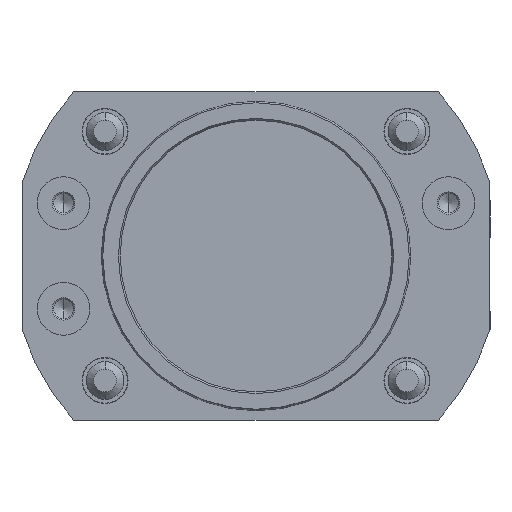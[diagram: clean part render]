
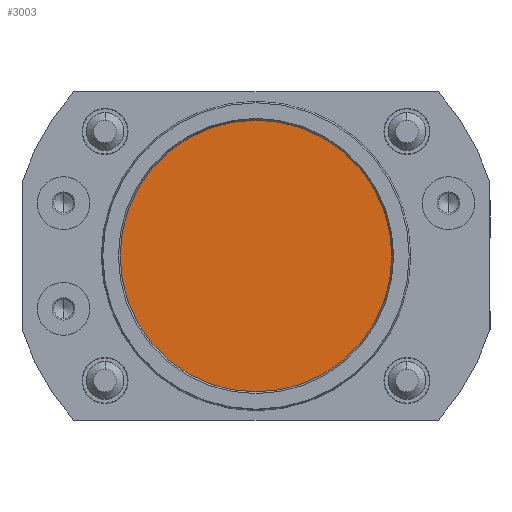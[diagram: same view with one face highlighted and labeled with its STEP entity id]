
A CAD part, front view. The second image highlights one B-rep face of the part: STEP entity #3003.
In plain terms, the highlighted planar face has unit normal (0, -1, 0).
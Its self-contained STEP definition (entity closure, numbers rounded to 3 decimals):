
#2820 = VERTEX_POINT ( 'NONE', #5390 ) ;
#2971 = ORIENTED_EDGE ( 'NONE', *, *, #3255, .F. ) ;
#3001 = EDGE_CURVE ( 'NONE', #3254, #2820, #6506, .T. ) ;
#3003 = ADVANCED_FACE ( 'NONE', ( #6519 ), #6437, .T. ) ;
#3012 = EDGE_LOOP ( 'NONE', ( #3013, #2971 ) ) ;
#3013 = ORIENTED_EDGE ( 'NONE', *, *, #3001, .F. ) ;
#3254 = VERTEX_POINT ( 'NONE', #6853 ) ;
#3255 = EDGE_CURVE ( 'NONE', #2820, #3254, #6797, .T. ) ;
#5390 = CARTESIAN_POINT ( 'NONE',  ( 0., 3., -18. ) ) ;
#6437 = PLANE ( 'NONE',  #6523 ) ;
#6499 = DIRECTION ( 'NONE',  ( 0., 0., -1. ) ) ;
#6502 = DIRECTION ( 'NONE',  ( 0., 0., 1. ) ) ;
#6503 = DIRECTION ( 'NONE',  ( 0., 1., 0. ) ) ;
#6504 = CARTESIAN_POINT ( 'NONE',  ( 0., 3., 0. ) ) ;
#6505 = AXIS2_PLACEMENT_3D ( 'NONE', #6504, #6503, #6502 ) ;
#6506 = CIRCLE ( 'NONE', #6505, 18. ) ;
#6512 = DIRECTION ( 'NONE',  ( 0., -1., 0. ) ) ;
#6513 = CARTESIAN_POINT ( 'NONE',  ( 0., 3., 0. ) ) ;
#6519 = FACE_OUTER_BOUND ( 'NONE', #3012, .T. ) ;
#6523 = AXIS2_PLACEMENT_3D ( 'NONE', #6513, #6512, #6499 ) ;
#6797 = CIRCLE ( 'NONE', #6849, 18. ) ;
#6847 = DIRECTION ( 'NONE',  ( 0., 0., 1. ) ) ;
#6848 = DIRECTION ( 'NONE',  ( 0., 1., 0. ) ) ;
#6849 = AXIS2_PLACEMENT_3D ( 'NONE', #6855, #6848, #6847 ) ;
#6853 = CARTESIAN_POINT ( 'NONE',  ( 0., 3., 18. ) ) ;
#6855 = CARTESIAN_POINT ( 'NONE',  ( 0., 3., 0. ) ) ;
